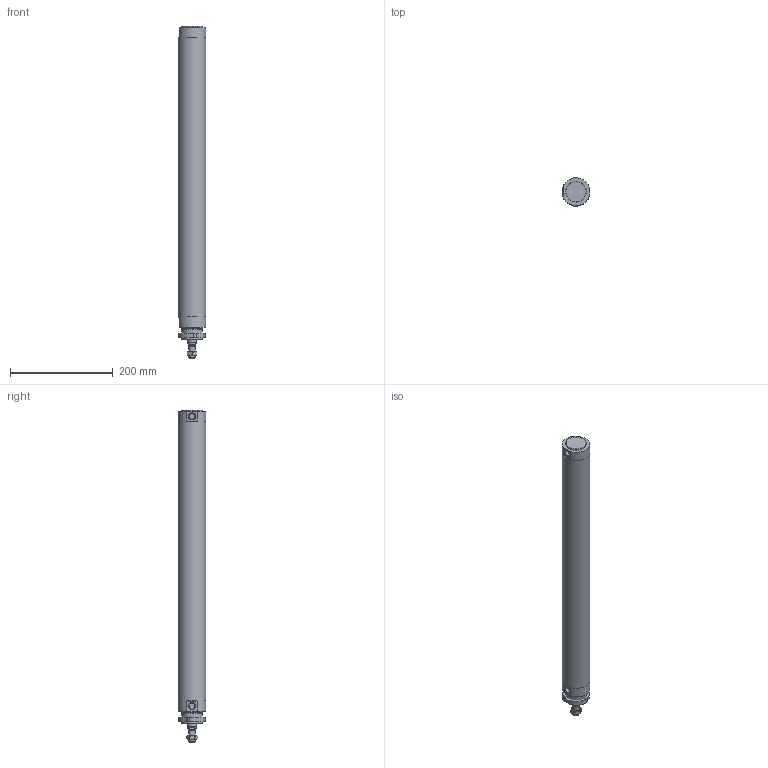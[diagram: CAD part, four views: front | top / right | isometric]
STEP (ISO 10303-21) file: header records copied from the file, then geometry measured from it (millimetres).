
FILE_DESCRIPTION(/* description */ (''),/* implementation_level */ '2;1');
FILE_NAME(/* name */ 'I:\Area Tecnica\Documenti\A-Manieri\_Inventor\12X\12X#D_###_####_#_#\12XAD_050_0500_#_#.stp',/* time_stamp */ '2015-04-29T16:42:47+02:00',/* author */ ('maniean1'),/* organization */ ('Pneumax S.p.A.'),/* preprocessor_version */ 'ST-DEVELOPER v15.2',/* originating_system */ 'Autodesk Inventor 2014',/* authorisation */ '');
FILE_SCHEMA (('AUTOMOTIVE_DESIGN { 1 0 10303 214 3 1 1 }'));
Length unit declared in the file: millimetre
Products named in the file (7): C1250_619-0500; 12X50_604; S12X50_0500; 12X_50_11; 12X50_611; G12X_050_05; 12XAD_050_0500_#_#
Bounding box: 54 x 54 x 645 mm (x, y, z)
Volume: 499363.2 mm3; surface area: 244027.3 mm2
Topology: 6 solids, 6 shells, 81 faces, 175 edges, 112 vertices
Faces by surface type: plane 41, cylinder 21, cone 19
Full cylindrical faces by diameter (mm): 10.2 x1, 11.4 x2, 12 x2, 14 x1, 15.6 x1, 16 x1, 38.2 x1, 40 x4, 50 x2, 54 x3
Entity records: 2155 total; most frequent: CARTESIAN_POINT 400, DIRECTION 364, ORIENTED_EDGE 284, AXIS2_PLACEMENT_3D 156, EDGE_CURVE 142, EDGE_LOOP 124, VERTEX_POINT 108, ADVANCED_FACE 81
